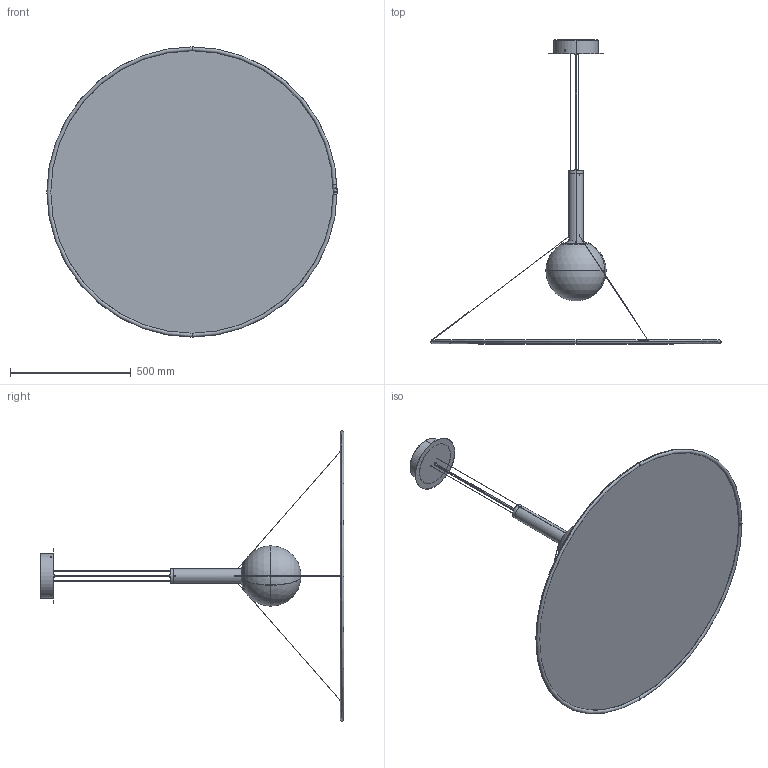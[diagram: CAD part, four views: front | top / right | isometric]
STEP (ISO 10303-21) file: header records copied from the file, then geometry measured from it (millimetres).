
FILE_DESCRIPTION (( 'STEP AP203' ), '1' );
FILE_NAME ('1200up.STEP', '2019-07-25T15:47:35', ( '' ), ( '' ), 'SwSTEP 2.0', 'SolidWorks 2019', '' );
FILE_SCHEMA (( 'CONFIG_CONTROL_DESIGN' ));
Length unit declared in the file: millimetre
Products named in the file (29): Grani Steab_GRANO M8X1.25 L.11 NERO CAVA 5088-4-11-2-9.STEP; 1.5C.AXO02.LS01.50_FUNE D''''ACCIAIO INOX 49 CAPI L.500.STEP; Part229^1200up; 1.5C.AXO02.LS01.17_rev_A.STEP; 1.5C.AXO02.LS01.13_rev_A_Default_A macchina_.STEP; Viti Testa Svasata Piana Incasso Esagonale_VITE M3x0.5 L.10 TSPCE.STEP; Rivetto Filettato M3_SPARATO.STEP; 0.5C.AXO02.LS02.98.STEP; Magneta a Disco Nodimio_MAGNETE NEODIMIO A DISCO _3 H.3.STEP; 1.5C.AXO02.LS01.05.STEP; 1.5A.AXO02.LS01.S4.STEP; 1.5C.AXO02.LS01.04.STEP; 1.5C.AXO02.LS01.20_rev_A_Default_A macchina_.STEP; 0.5C.AXO02.LS02.03.STEP; 1.5C.AXO02.LS01.14.STEP; 0.5C.AXO02.LS02.01_rev_A_SENZA CARICO.STEP; 1.5A.AXO02.LS01.S3.STEP; 1.5A.AXO02.LS01.S1_rev_A.STEP; 1200up; Bloccacavo Steab_BLOCCACAVO STEAB M13x1 5346-11-2-6 NERO.STEP; Nipplo A_NIPPLO M10x1 H.7 NERO.STEP; 0.5A.AXO02.LS02.M2.STEP; Finale Maschio M6 art.21024.STEP; 0.5A.AXO02.LS02.M1.STEP; 1.5A.AXO02.LS01.M6.STEP; 0.5C.AXO02.LS02.06_rev_A.STEP; 1200up.STEP; 1.5C.AXO02.LS01.51.STEP; 1.5A.AXO02.LS01.M7.STEP
Assembly tree (39 placements, depth 5):
  1200up
    1200up.STEP
      1.5A.AXO02.LS01.S1_rev_A.STEP
        1.5C.AXO02.LS01.04.STEP
        1.5C.AXO02.LS01.05.STEP
        Rivetto Filettato M3_SPARATO.STEP  x3
      0.5A.AXO02.LS02.M1.STEP
        0.5C.AXO02.LS02.01_rev_A_SENZA CARICO.STEP
      0.5A.AXO02.LS02.M2.STEP
        0.5C.AXO02.LS02.03.STEP
        0.5C.AXO02.LS02.06_rev_A.STEP
      1.5A.AXO02.LS01.M6.STEP
        1.5A.AXO02.LS01.S4.STEP
          1.5C.AXO02.LS01.13_rev_A_Default_A macchina_.STEP
      1.5A.AXO02.LS01.M7.STEP
        1.5A.AXO02.LS01.S3.STEP
          1.5C.AXO02.LS01.17_rev_A.STEP
        Nipplo A_NIPPLO M10x1 H.7 NERO.STEP
        1.5C.AXO02.LS01.20_rev_A_Default_A macchina_.STEP
      1.5C.AXO02.LS01.50_FUNE D''''ACCIAIO INOX 49 CAPI L.500.STEP  x3
      Viti Testa Svasata Piana Incasso Esagonale_VITE M3x0.5 L.10 TSPCE.STEP  x3
      Finale Maschio M6 art.21024.STEP  x3
      Bloccacavo Steab_BLOCCACAVO STEAB M13x1 5346-11-2-6 NERO.STEP
      Grani Steab_GRANO M8X1.25 L.11 NERO CAVA 5088-4-11-2-9.STEP
      Magneta a Disco Nodimio_MAGNETE NEODIMIO A DISCO _3 H.3.STEP
      1.5C.AXO02.LS01.13_rev_A_Default_A macchina_.STEP
      1.5C.AXO02.LS01.14.STEP
      0.5C.AXO02.LS02.98.STEP  x3
      1.5C.AXO02.LS01.51.STEP
    Part229^1200up
Bounding box: 1200 x 1256.51 x 1200 mm (x, y, z)
Volume: 2248060 mm3; surface area: 3298476.7 mm2
Topology: 40 solids, 40 shells, 777 faces, 1751 edges, 1081 vertices
Faces by surface type: cylinder 371, plane 185, torus 124, cone 83, sphere 14
Entity records: 22428 total; most frequent: CARTESIAN_POINT 6004, DIRECTION 3027, ORIENTED_EDGE 2486, AXIS2_PLACEMENT_3D 1282, EDGE_CURVE 1243, VERTEX_POINT 785, EDGE_LOOP 692, CIRCLE 685
